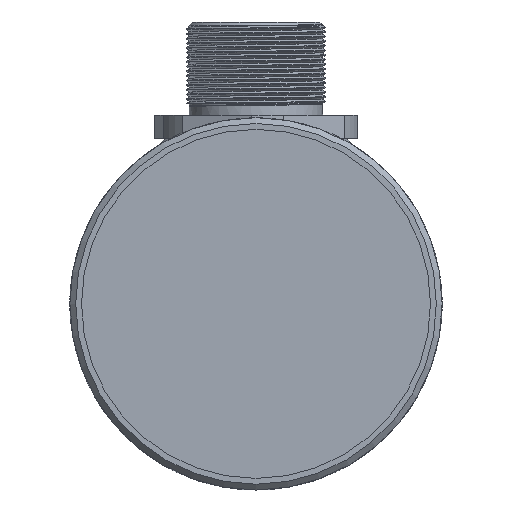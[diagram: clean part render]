
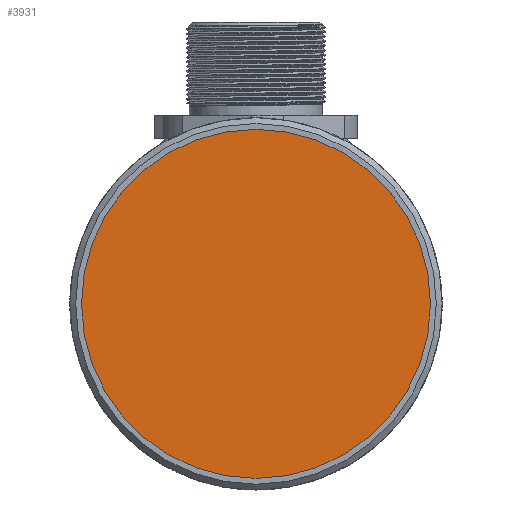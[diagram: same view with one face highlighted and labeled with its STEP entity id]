
A CAD part, left-side view. The second image highlights one B-rep face of the part: STEP entity #3931.
In plain terms, the highlighted planar face has unit normal (-1, 0, 0).
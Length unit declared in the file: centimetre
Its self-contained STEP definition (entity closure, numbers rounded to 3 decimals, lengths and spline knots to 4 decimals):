
#844=CIRCLE('',#4182,1.5);
#1019=VERTEX_POINT('',#5342);
#1903=EDGE_CURVE('',#1019,#1019,#844,.T.);
#2559=ORIENTED_EDGE('',*,*,#1903,.T.);
#3385=EDGE_LOOP('',(#2559));
#3661=FACE_BOUND('',#3385,.T.);
#3931=ADVANCED_FACE('',(#3661),#16978,.T.);
#4182=AXIS2_PLACEMENT_3D('',#5341,#4597,#4598);
#4184=AXIS2_PLACEMENT_3D('',#5345,#4601,$);
#4597=DIRECTION('',(-1.,0.,0.));
#4598=DIRECTION('',(0.,0.,1.5));
#4601=DIRECTION('',(-1.,0.,0.));
#5341=CARTESIAN_POINT('',(0.1,0.,0.));
#5342=CARTESIAN_POINT('',(0.1,0.,1.5));
#5345=CARTESIAN_POINT('',(0.1,0.,0.));
#16978=PLANE('',#4184);
